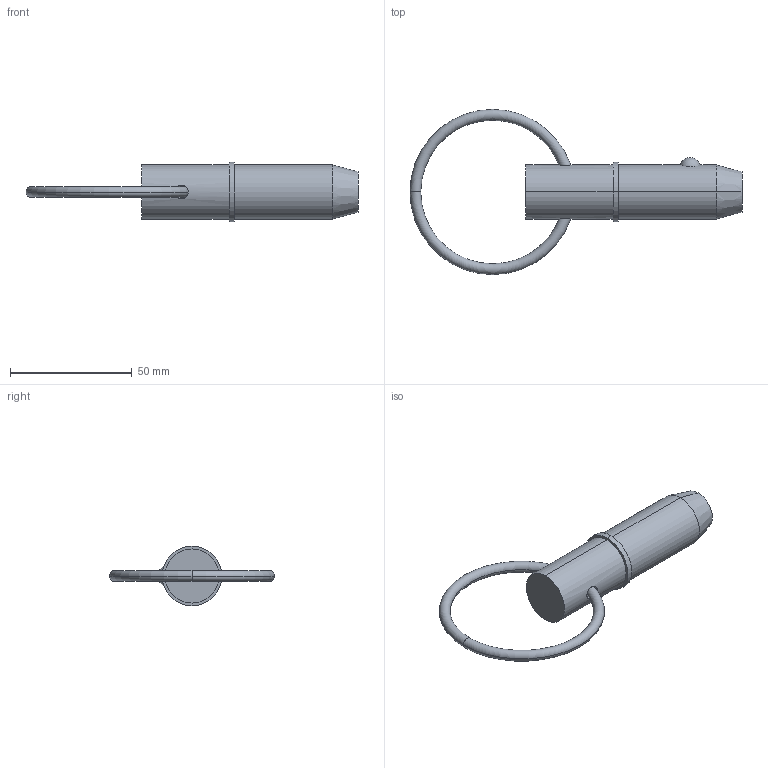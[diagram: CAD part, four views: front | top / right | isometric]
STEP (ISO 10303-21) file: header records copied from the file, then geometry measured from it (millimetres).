
FILE_DESCRIPTION (( 'STEP AP203' ), '1' );
FILE_NAME ('33016.W8810.step', '2024-11-07T11:15:52', ( '' ), ( '' ), 'SwSTEP 2.0', 'SolidWorks 2019', '' );
FILE_SCHEMA (( 'CONFIG_CONTROL_DESIGN' ));
Length unit declared in the file: millimetre
Products named in the file (3): Part1_33016.W8810; Part2_33016.W8810; 33016.W8810
Assembly tree (2 placements, depth 2):
  33016.W8810
    Part1_33016.W8810
    Part2_33016.W8810
Bounding box: 136.51 x 67.95 x 24.45 mm (x, y, z)
Volume: 36417.2 mm3; surface area: 10086.7 mm2
Topology: 2 solids, 2 shells, 22 faces, 43 edges, 26 vertices
Faces by surface type: torus 8, cylinder 6, plane 4, sphere 2, cone 2
Entity records: 1065 total; most frequent: CARTESIAN_POINT 288, DIRECTION 120, ORIENTED_EDGE 86, AXIS2_PLACEMENT_3D 56, EDGE_CURVE 43, CIRCLE 29, EDGE_LOOP 27, PERSON_AND_ORGANIZATION 26
